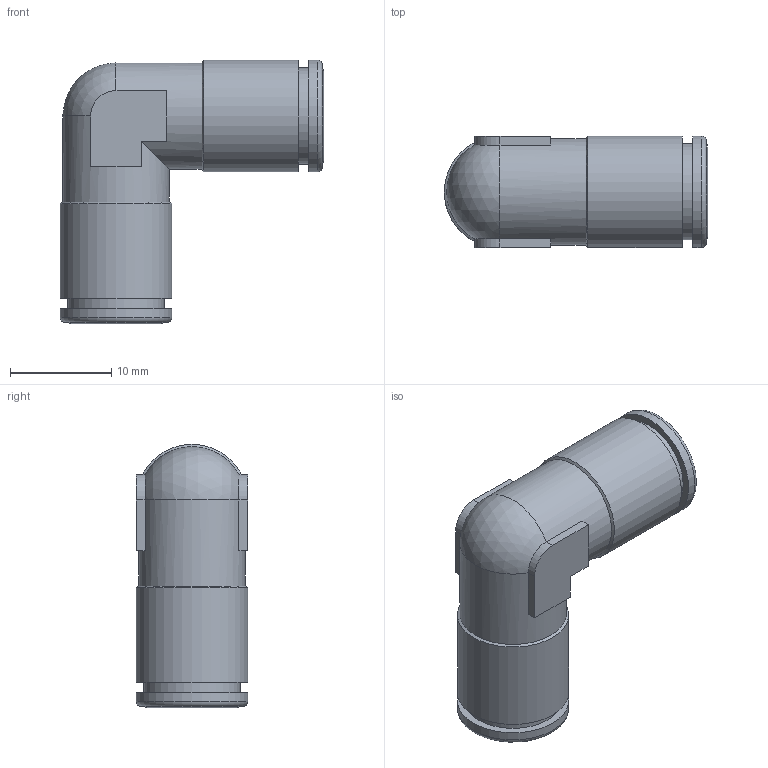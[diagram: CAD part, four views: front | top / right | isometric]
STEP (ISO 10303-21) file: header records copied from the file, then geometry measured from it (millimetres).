
FILE_DESCRIPTION(/* description */ (''),/* implementation_level */ '2;1');
FILE_NAME(/* name */ '200403-ES_STX04_6_6_06.06.16',/* time_stamp */ '2016-06-06T12:11:12+02:00',/* author */ (''),/* organization */ (''),/* preprocessor_version */ 'ST-DEVELOPER v14',/* originating_system */ 'HiCAD 2013 1802.4 Build 509',/* authorisation */ '');
FILE_SCHEMA (('AUTOMOTIVE_DESIGN { 1 0 10303 214 1 1 1 1 }'));
Length unit declared in the file: millimetre
Products named in the file (4): Root; R200403-ES-N; DR6-1_NEU
Assembly tree (3 placements, depth 2):
  Root
    R200403-ES-N
    DR6-1_NEU
    DR6-1_NEU
Bounding box: 26 x 11 x 26 mm (x, y, z)
Volume: 2336.3 mm3; surface area: 3221.7 mm2
Topology: 3 solids, 3 shells, 65 faces, 135 edges, 80 vertices
Faces by surface type: plane 24, cylinder 20, cone 18, torus 2, sphere 1
Full cylindrical faces by diameter (mm): 6.1 x2, 6.2 x2, 8.3 x2, 9 x2, 9.5 x2, 9.6 x2, 10.5 x2, 11 x4
Entity records: 2584 total; most frequent: DIRECTION 290, CARTESIAN_POINT 238, PRESENTATION_STYLE_ASSIGNMENT 201, OVER_RIDING_STYLED_ITEM 198, COLOUR_RGB 185, DRAUGHTING_PRE_DEFINED_CURVE_FONT 182, CURVE_STYLE 182, ORIENTED_EDGE 182
